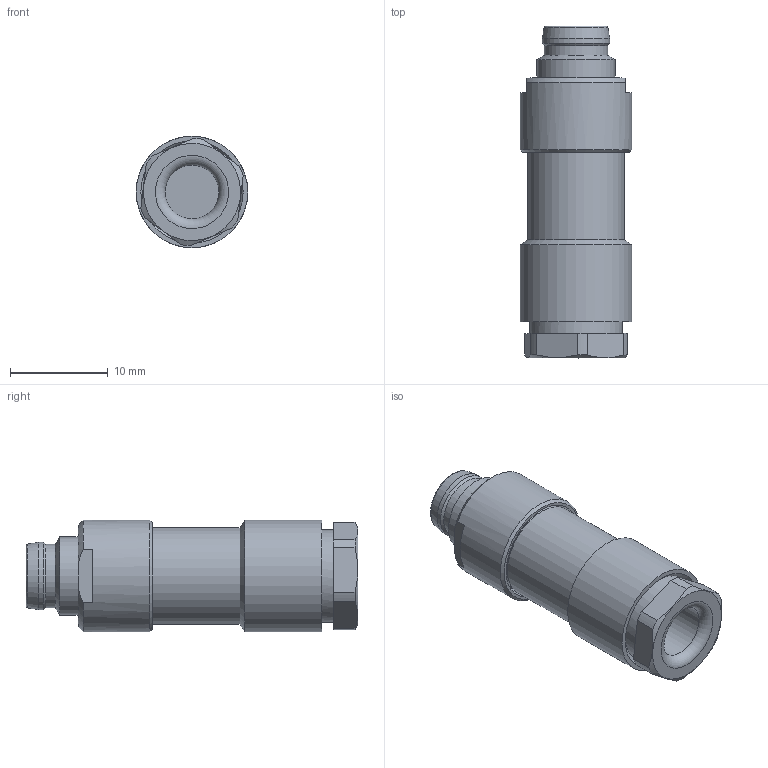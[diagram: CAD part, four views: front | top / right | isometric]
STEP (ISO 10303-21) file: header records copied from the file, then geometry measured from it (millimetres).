
FILE_DESCRIPTION((''),'2;1');
FILE_NAME('C:\TurckZip\BS_5132.stp','2007-03-15T11:41:07',('IKOROL'),(''),'Autodesk Inventor 11','Autodesk Inventor 11','');
FILE_SCHEMA(('AUTOMOTIVE_DESIGN { 1 0 10303 214 1 1 1 1 }'));
Length unit declared in the file: millimetre
Products named in the file (1): Part5
Bounding box: 11.43 x 34 x 11.43 mm (x, y, z)
Volume: 2067.2 mm3; surface area: 2237.2 mm2
Topology: 1 solids, 1 shells, 84 faces, 185 edges, 116 vertices
Faces by surface type: cylinder 33, plane 30, cone 15, sphere 3, torus 3
Full cylindrical faces by diameter (mm): 0.8 x3, 1 x6, 5.5 x2, 5.8 x2, 6.4 x1, 6.5 x2, 6.9 x1, 8 x2, 9.5 x3, 9.906 x1, 10.3 x1, 11.43 x2
Entity records: 2034 total; most frequent: DIRECTION 373, CARTESIAN_POINT 363, ORIENTED_EDGE 258, AXIS2_PLACEMENT_3D 171, EDGE_LOOP 144, EDGE_CURVE 129, VERTEX_POINT 107, CIRCLE 86
